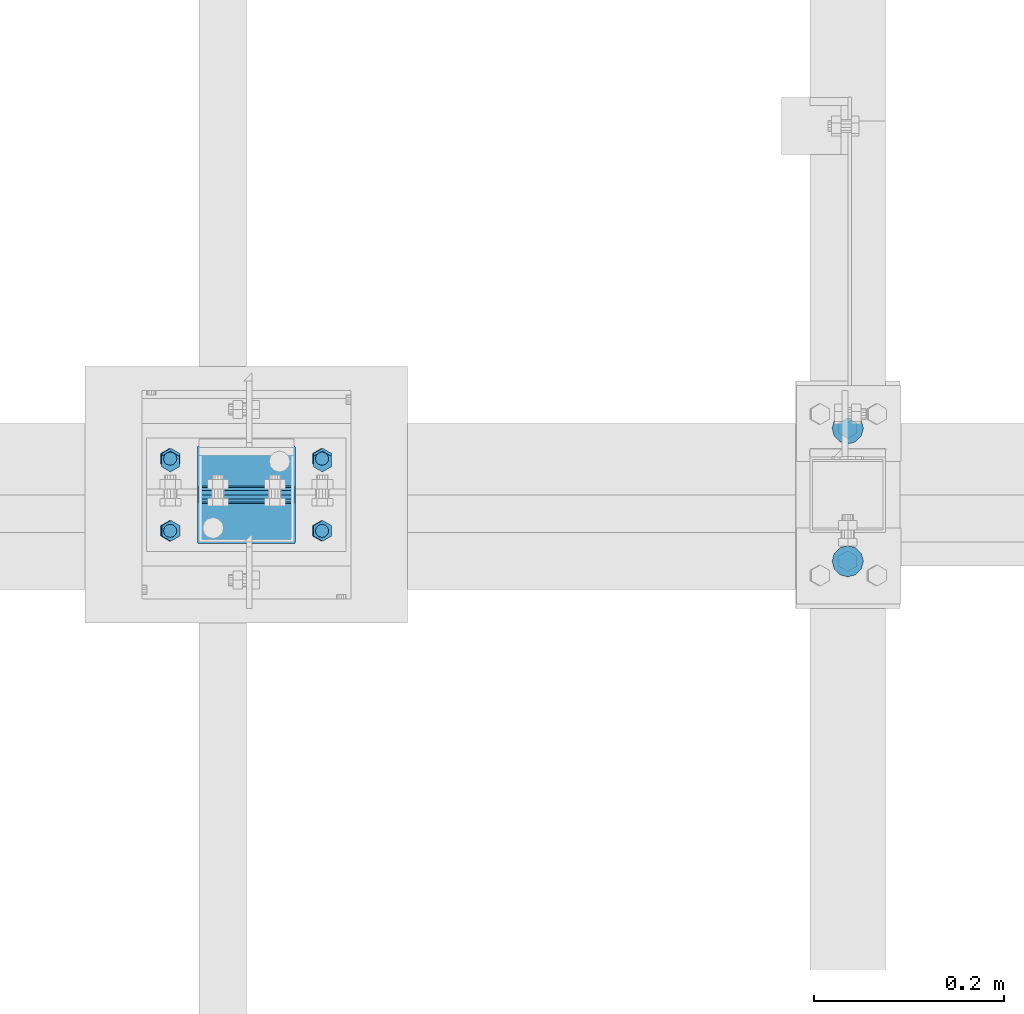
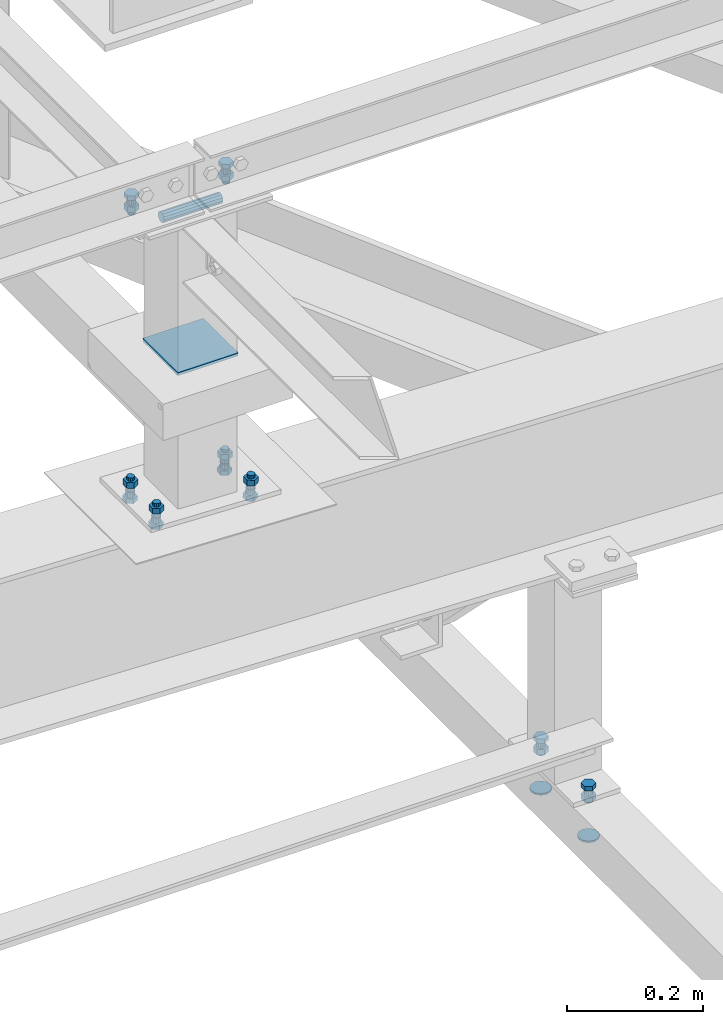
# One storey, part 15 of 3134: 7 mechanical fasteners, 4 elements without a shape of their own.
"""IFC2X3 building model written with IfcOpenShell, lengths in millimetres."""

import ifcopenshell
import ifcopenshell.guid

model = None  # the IFC model being written
_history = None  # IfcOwnerHistory: only IFC2X3 demands one
_inside = {}  # id of a spatial element -> (the spatial element, [elements in it])
_under = {}  # id of a project, library or spatial element -> (it, [spatial elements below it])
_declared = {}  # id of a project -> (the project, [libraries it declares])
_typed = {}  # id of a type object -> (the type object, [elements of that type])
_made_of = {}  # id of a material, layer set ... -> (it, [elements and type objects made of it])


def new_model(schema):
    """Start an empty IFC model of exactly this schema.

    Asked for "IFC4X3", IfcOpenShell would pick the latest addendum, in which some entities
    have other attributes; the version numbers below select the first issue.
    IFC2X3 requires an IfcOwnerHistory on every rooted entity: one is made here for all.
    """
    global model, _history
    if schema == "IFC4X3":
        model = ifcopenshell.file(schema_version=(4, 3, 0, 0))
    else:
        model = ifcopenshell.file(schema=schema)
    _inside.clear()
    _under.clear()
    _declared.clear()
    _typed.clear()
    _made_of.clear()
    _history = None
    if model.schema == "IFC2X3":
        org = make("IfcOrganization", Name="unknown")
        user = make(
            "IfcPersonAndOrganization",
            ThePerson=make("IfcPerson", FamilyName="unknown"),
            TheOrganization=org,
        )
        app = make(
            "IfcApplication",
            ApplicationDeveloper=org,
            Version="unknown",
            ApplicationFullName="unknown",
            ApplicationIdentifier="unknown",
        )
        _history = make(
            "IfcOwnerHistory",
            OwningUser=user,
            OwningApplication=app,
            ChangeAction="ADDED",
            CreationDate=0,
        )
    return model


def make(cls, **values):
    """One entity of the class cls with the attributes given. An attribute that is None is left unset."""
    return model.create_entity(
        cls, **{name: value for name, value in values.items() if value is not None}
    )


def rooted(cls, **values):
    """An entity with a GlobalId (a new one), such as an element, a storey or a relation."""
    return make(cls, GlobalId=ifcopenshell.guid.new(), OwnerHistory=_history, **values)


def si_unit(unit_type, name, prefix=None):
    """IfcSIUnit, for example si_unit("LENGTHUNIT", "METRE", prefix="MILLI")."""
    return make("IfcSIUnit", UnitType=unit_type, Prefix=prefix, Name=name)


def assignment(units):
    """IfcUnitAssignment: the units of a project."""
    return None if units is None else make("IfcUnitAssignment", Units=units)


def point(xyz):
    """IfcCartesianPoint."""
    return None if xyz is None else make("IfcCartesianPoint", Coordinates=xyz)


def direction(xyz):
    """IfcDirection."""
    return None if xyz is None else make("IfcDirection", DirectionRatios=xyz)


def frame(location, z_axis=None, x_axis=None):
    """IfcAxis2Placement3D, a coordinate frame: its origin and axes. An axis left out is left unset."""
    return make(
        "IfcAxis2Placement3D",
        Location=point(location),
        Axis=direction(z_axis),
        RefDirection=direction(x_axis),
    )


def origin_with_axes():
    """The frame at (0, 0, 0) with the z axis (0, 0, 1) and the x axis (1, 0, 0) written out."""
    return frame((0.0, 0.0, 0.0), z_axis=(0.0, 0.0, 1.0), x_axis=(1.0, 0.0, 0.0))


def place(relative_to, where):
    """IfcLocalPlacement: puts the frame where relative to a parent placement (None: the world)."""
    return make(
        "IfcLocalPlacement", PlacementRelTo=relative_to, RelativePlacement=where
    )


def context(
    kind, dimensions, precision=None, world=None, true_north=None, identifier=None
):
    """IfcGeometricRepresentationContext, for example the 3D "Model" context."""
    return make(
        "IfcGeometricRepresentationContext",
        ContextIdentifier=identifier,
        ContextType=kind,
        CoordinateSpaceDimension=dimensions,
        Precision=precision,
        WorldCoordinateSystem=world,
        TrueNorth=true_north,
    )


def subcontext(parent, identifier, kind, view, scale=None):
    """IfcGeometricRepresentationSubContext, for example "Body" below "Model"."""
    return make(
        "IfcGeometricRepresentationSubContext",
        ContextIdentifier=identifier,
        ContextType=kind,
        ParentContext=parent,
        TargetScale=scale,
        TargetView=view,
    )


def project(units=None, contexts=None):
    """IfcProject with its units and contexts."""
    return rooted(
        "IfcProject",
        Name="project",
        RepresentationContexts=contexts,
        UnitsInContext=assignment(units),
    )


def spatial(cls, under=None, at=None, **own):
    """A site, building, storey or space (cls), placed at a placement, below another one or the project."""
    s = rooted(cls, ObjectPlacement=at, **own)
    if under is not None:
        _under.setdefault(under.id(), (under, []))[1].append(s)
    return s


def faces_of(points, faces, orient=None, outer=None):
    """IfcFace entities. A face is a list of loops; a loop is a list of indices into points, from 0.

    orient and outer hold one flag for each loop. By default every Orientation is true, the
    first loop of a face is its IfcFaceOuterBound and the others are IfcFaceBound.
    """
    made = []
    for i, loops in enumerate(faces):
        bounds = []
        for j, loop in enumerate(loops):
            is_outer = j == 0 if outer is None else outer[i][j]
            bounds.append(
                make(
                    "IfcFaceOuterBound" if is_outer else "IfcFaceBound",
                    Bound=make("IfcPolyLoop", Polygon=[points[k] for k in loop]),
                    Orientation=True if orient is None else orient[i][j],
                )
            )
        made.append(make("IfcFace", Bounds=bounds))
    return made


def faceted_brep(points, faces, orient=None, outer=None, voids=None):
    """IfcFacetedBrep: a solid bounded by flat faces; with voids (closed shells), ...WithVoids."""
    shared = [point(p) for p in points]
    hull = make("IfcClosedShell", CfsFaces=faces_of(shared, faces, orient, outer))
    if voids is None:
        return make("IfcFacetedBrep", Outer=hull)
    return make(
        "IfcFacetedBrepWithVoids",
        Outer=hull,
        Voids=[
            make(cls, CfsFaces=faces_of(shared, fs, o, b)) for cls, fs, o, b in voids
        ],
    )


def shape(context_of_items, identifier, shape_type, items):
    """IfcShapeRepresentation: the items that make up one representation, for example the "Body"."""
    return make(
        "IfcShapeRepresentation",
        ContextOfItems=context_of_items,
        RepresentationIdentifier=identifier,
        RepresentationType=shape_type,
        Items=items,
    )


def source(mapping_origin, context_of_items, identifier, shape_type, items):
    """IfcRepresentationMap: a shape defined once, which mapped items show again and again."""
    return make(
        "IfcRepresentationMap",
        MappingOrigin=mapping_origin,
        MappedRepresentation=shape(context_of_items, identifier, shape_type, items),
    )


def transform(
    local_origin,
    x_axis=None,
    y_axis=None,
    z_axis=None,
    scale=None,
    scale2=None,
    scale3=None,
    uniform=True,
):
    """IfcCartesianTransformationOperator3D, or its non-uniform kind. x_axis, y_axis, z_axis: its Axis1, 2, 3."""
    if uniform:
        return make(
            "IfcCartesianTransformationOperator3D",
            Axis1=direction(x_axis),
            Axis2=direction(y_axis),
            LocalOrigin=point(local_origin),
            Scale=scale,
            Axis3=direction(z_axis),
        )
    return make(
        "IfcCartesianTransformationOperator3DnonUniform",
        Axis1=direction(x_axis),
        Axis2=direction(y_axis),
        LocalOrigin=point(local_origin),
        Scale=scale,
        Axis3=direction(z_axis),
        Scale2=scale2,
        Scale3=scale3,
    )


def mapped(mapping_source, mapping_target):
    """IfcMappedItem: shows the shape of a source again, moved by a transform."""
    return make(
        "IfcMappedItem", MappingSource=mapping_source, MappingTarget=mapping_target
    )


def material(Name=None, Category=None):
    """IfcMaterial."""
    return make("IfcMaterial", Name=Name, Category=Category)


def made_of(thing, what):
    """Note that an element or type object is made of a material, layer set ...; save() writes the relation."""
    if what is not None:
        _made_of.setdefault(what.id(), (what, []))[1].append(thing)
    return thing


def type_object(cls, material=None, **own):
    """A type object (cls), such as IfcWallType, which elements share."""
    return made_of(rooted(cls, **own), material)


def element(
    cls,
    number,
    at=None,
    inside=None,
    cuts=None,
    type_object=None,
    material=None,
    context=None,
    identifier="Body",
    shape_type=None,
    held_by="IfcProductDefinitionShape",
    body=None,
    shapes=None,
    **own,
):
    """One element of the class cls, such as IfcWall. Its Tag is "e" and its number.

    at: its placement. inside: the storey or other place that contains it. cuts: it is an
    opening in that element (IfcRelVoidsElement). A single representation is given by context,
    identifier, shape_type and body (its items); several are given by shapes. held_by: the class
    of the entity that holds the representations. save() writes the other relations.
    """
    e = rooted(cls, Tag="e%d" % number, ObjectPlacement=at, **own)
    if body is not None:
        shapes = [shape(context, identifier, shape_type, body)]
    if shapes is not None:
        e.Representation = make(held_by, Representations=shapes)
    if inside is not None:
        _inside.setdefault(inside.id(), (inside, []))[1].append(e)
    if cuts is not None:
        rooted(
            "IfcRelVoidsElement", RelatingBuildingElement=cuts, RelatedOpeningElement=e
        )
    if type_object is not None:
        _typed.setdefault(type_object.id(), (type_object, []))[1].append(e)
    return made_of(e, material)


def aggregate(whole, parts):
    """IfcRelAggregates: a whole, such as a stair, and the parts it consists of."""
    return rooted("IfcRelAggregates", RelatingObject=whole, RelatedObjects=parts)


def save(model, path):
    """Write the relations noted so far, then the file.

    IfcRelAggregates (storeys below a building ...), IfcRelContainedInSpatialStructure (elements
    in a storey), IfcRelDefinesByType, IfcRelAssociatesMaterial and IfcRelDeclares: one each for
    every whole, place, type object, material and project.
    """
    for whole, parts in _under.values():
        aggregate(whole, parts)
    for where, things in _inside.values():
        rooted(
            "IfcRelContainedInSpatialStructure",
            RelatedElements=things,
            RelatingStructure=where,
        )
    for kind, things in _typed.values():
        rooted("IfcRelDefinesByType", RelatedObjects=things, RelatingType=kind)
    for what, things in _made_of.values():
        rooted("IfcRelAssociatesMaterial", RelatedObjects=things, RelatingMaterial=what)
    for by, libraries in _declared.values():
        rooted("IfcRelDeclares", RelatingContext=by, RelatedDefinitions=libraries)
    model.write(path)


model = new_model("IFC2X3")

# Units and contexts
model_context = context("Model", 3, precision=1e-05, world=origin_with_axes())
body_context = subcontext(model_context, "Body", "Model", "MODEL_VIEW")
ifc_project = project(units=[si_unit("LENGTHUNIT", "METRE", prefix="MILLI"), si_unit("AREAUNIT", "SQUARE_METRE"), si_unit("VOLUMEUNIT", "CUBIC_METRE"), si_unit("MASSUNIT", "GRAM", prefix="KILO"), si_unit("TIMEUNIT", "SECOND"), si_unit("PLANEANGLEUNIT", "RADIAN"), si_unit("SOLIDANGLEUNIT", "STERADIAN"), si_unit("THERMODYNAMICTEMPERATUREUNIT", "DEGREE_CELSIUS"), si_unit("LUMINOUSINTENSITYUNIT", "LUMEN")], contexts=[model_context])

# Site, building, storey
site_placement = place(None, origin_with_axes())
site = spatial("IfcSite", under=ifc_project, at=site_placement, CompositionType="ELEMENT")
building_placement = place(site_placement, origin_with_axes())
building = spatial("IfcBuilding", under=site, at=building_placement, Name="Undefined", CompositionType="ELEMENT")
storey_placement = place(building_placement, origin_with_axes())
storey = spatial("IfcBuildingStorey", under=building, at=storey_placement, Name="Undefined", CompositionType="ELEMENT", Elevation=0.0)

# Assembly, mechanical fasteners
assembly_1_placement = place(storey_placement, origin_with_axes())
assembly_1 = element("IfcElementAssembly", 1, at=assembly_1_placement, inside=storey, AssemblyPlace="NOTDEFINED", PredefinedType="RIGID_FRAME")
ifc_material_1 = material(Name="8.8")
mechanical_fastener_type = type_object("IfcMechanicalFastenerType", Name="Bolt assembly")
shared_shape_1 = source(origin_with_axes(), body_context, "Body", "Brep", [
    faceted_brep([(16.5, -3.0, 0.0), (14.289419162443, -3.0, 8.25000000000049), (8.24999999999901, -3.0, 14.2894191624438), (-1.70995436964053e-12, -3.0, 16.5), (-8.25000000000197, -3.0, 14.2894191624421), (-14.2894191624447, -3.0, 8.24999999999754), (-16.5, -3.0, -3.41990873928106e-12), (-14.2894191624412, -3.0, -8.25000000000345), (-8.24999999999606, -3.0, -14.2894191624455), (5.11154442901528e-12, -3.0, -16.5), (8.25000000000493, -3.0, -14.2894191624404), (14.2894191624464, -3.0, -8.24999999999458), (14.2894191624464, 0.1, -8.24999999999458), (8.25000000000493, 0.1, -14.2894191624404), (5.11154442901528e-12, 0.1, -16.5), (-8.24999999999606, 0.1, -14.2894191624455), (-14.2894191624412, 0.1, -8.25000000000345), (-16.5, 0.1, -3.41990873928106e-12), (-14.2894191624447, 0.1, 8.24999999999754), (-8.25000000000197, 0.1, 14.2894191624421), (-1.70995436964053e-12, 0.1, 16.5), (8.24999999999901, 0.1, 14.2894191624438), (14.289419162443, 0.1, 8.25000000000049), (16.5, 0.1, 0.0)], [[[0, 1, 2, 3, 4, 5, 6, 7, 8, 9, 10, 11]], [[12, 13, 14, 15, 16, 17, 18, 19, 20, 21, 22, 23]], [[0, 23, 22, 1]], [[1, 22, 21, 2]], [[2, 21, 20, 3]], [[3, 20, 19, 4]], [[4, 19, 18, 5]], [[5, 18, 17, 6]], [[6, 17, 16, 7]], [[7, 16, 15, 8]], [[8, 15, 14, 9]], [[9, 14, 13, 10]], [[10, 13, 12, 11]], [[11, 12, 23, 0]]]),
])
mechanical_fastener_1_placement = place(assembly_1_placement, frame((6325.0, 13130.0, 3040.0), z_axis=(1.0, 0.0, 0.0), x_axis=(0.0, -1.0, 0.0)))
mechanical_fastener_1 = element("IfcMechanicalFastener", 2, at=mechanical_fastener_1_placement, type_object=mechanical_fastener_type, material=ifc_material_1, Name="Bolt assembly", NominalDiameter=30.0, NominalLength=3.0, context=body_context, shape_type="MappedRepresentation", body=[
    mapped(shared_shape_1, transform((0.0, 0.0, 0.0))),
    mapped(shared_shape_1, transform((140.0, 0.0, 0.0))),
])
shared_shape_2 = source(origin_with_axes(), body_context, "Body", "Brep", [
    faceted_brep([(10.9696551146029, -16.0, 0.0), (5.48482755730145, -16.0, 9.5), (-5.48482755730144, -16.0, 9.5), (-10.9696551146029, -16.0, 1.34339530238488e-15), (-5.48482755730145, -16.0, -9.5), (5.48482755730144, -16.0, -9.50000000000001), (5.48482755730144, -8.0, -9.50000000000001), (-5.48482755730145, -8.0, -9.5), (-10.9696551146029, -8.0, 1.34339530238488e-15), (-5.48482755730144, -8.0, 9.5), (5.48482755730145, -8.0, 9.5), (10.9696551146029, -8.0, 0.0), (6.0, -8.0, 0.0), (5.19615242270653, -8.0, 3.00000000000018), (2.99999999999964, -8.0, 5.19615242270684), (-6.21801588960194e-13, -8.0, 6.0), (-3.00000000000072, -8.0, 5.19615242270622), (-5.19615242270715, -8.0, 2.9999999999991), (-6.0, -8.0, -1.24360317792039e-12), (-5.19615242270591, -8.0, -3.00000000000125), (-2.99999999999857, -8.0, -5.19615242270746), (1.85874342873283e-12, -8.0, -6.0), (3.00000000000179, -8.0, -5.1961524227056), (5.19615242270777, -8.0, -2.99999999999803), (5.19615242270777, 17.0, -2.99999999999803), (3.00000000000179, 17.0, -5.1961524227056), (1.85874342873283e-12, 17.0, -6.0), (-2.99999999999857, 17.0, -5.19615242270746), (-5.19615242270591, 17.0, -3.00000000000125), (-6.0, 17.0, -1.24360317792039e-12), (-5.19615242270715, 17.0, 2.9999999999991), (-3.00000000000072, 17.0, 5.19615242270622), (-6.21801588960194e-13, 17.0, 6.0), (2.99999999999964, 17.0, 5.19615242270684), (5.19615242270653, 17.0, 3.00000000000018), (6.0, 17.0, 0.0), (10.9696551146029, 3.00000000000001, 0.0), (5.48482755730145, 3.00000000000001, 9.5), (-5.48482755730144, 3.00000000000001, 9.5), (-10.9696551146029, 3.00000000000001, 1.34339530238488e-15), (-5.48482755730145, 3.00000000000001, -9.5), (5.48482755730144, 3.00000000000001, -9.50000000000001), (5.48482755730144, 13.0, -9.50000000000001), (-5.48482755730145, 13.0, -9.5), (-10.9696551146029, 13.0, 1.34339530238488e-15), (-5.48482755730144, 13.0, 9.5), (5.48482755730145, 13.0, 9.5), (10.9696551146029, 13.0, 0.0)], [[[0, 1, 2, 3, 4, 5]], [[6, 7, 8, 9, 10, 11]], [[0, 11, 10, 1]], [[1, 10, 9, 2]], [[2, 9, 8, 3]], [[3, 8, 7, 4]], [[4, 7, 6, 5]], [[5, 6, 11, 0]], [[12, 13, 14, 15, 16, 17, 18, 19, 20, 21, 22, 23]], [[24, 25, 26, 27, 28, 29, 30, 31, 32, 33, 34, 35]], [[12, 35, 34, 13]], [[13, 34, 33, 14]], [[14, 33, 32, 15]], [[15, 32, 31, 16]], [[16, 31, 30, 17]], [[17, 30, 29, 18]], [[18, 29, 28, 19]], [[19, 28, 27, 20]], [[20, 27, 26, 21]], [[21, 26, 25, 22]], [[22, 25, 24, 23]], [[23, 24, 35, 12]], [[36, 37, 38, 39, 40, 41]], [[42, 43, 44, 45, 46, 47]], [[36, 47, 46, 37]], [[37, 46, 45, 38]], [[38, 45, 44, 39]], [[39, 44, 43, 40]], [[40, 43, 42, 41]], [[41, 42, 47, 36]]]),
    faceted_brep([(7.0, -7.9, 0.0), (6.06217782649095, -7.9, 3.50000000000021), (3.49999999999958, -7.9, 6.06217782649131), (-7.25435187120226e-13, -7.9, 7.0), (-3.50000000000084, -7.9, 6.06217782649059), (-6.06217782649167, -7.9, 3.49999999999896), (-7.0, -7.9, -1.45087037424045e-12), (-6.06217782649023, -7.9, -3.50000000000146), (-3.49999999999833, -7.9, -6.06217782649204), (2.1685340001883e-12, -7.9, -7.0), (3.50000000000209, -7.9, -6.06217782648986), (6.0621778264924, -7.9, -3.4999999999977), (6.0621778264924, 0.0999999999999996, -3.4999999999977), (3.50000000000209, 0.0999999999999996, -6.06217782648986), (2.1685340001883e-12, 0.0999999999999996, -7.0), (-3.49999999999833, 0.0999999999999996, -6.06217782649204), (-6.06217782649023, 0.0999999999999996, -3.50000000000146), (-7.0, 0.0999999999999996, -1.45087037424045e-12), (-6.06217782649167, 0.0999999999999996, 3.49999999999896), (-3.50000000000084, 0.0999999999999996, 6.06217782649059), (-7.25435187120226e-13, 0.0999999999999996, 7.0), (3.49999999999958, 0.0999999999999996, 6.06217782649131), (6.06217782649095, 0.0999999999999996, 3.50000000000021), (7.0, 0.0999999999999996, 0.0), (7.0, -0.1, 0.0), (6.06217782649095, -0.1, 3.50000000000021), (3.49999999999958, -0.1, 6.06217782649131), (-7.25435187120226e-13, -0.1, 7.0), (-3.50000000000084, -0.1, 6.06217782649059), (-6.06217782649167, -0.1, 3.49999999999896), (-7.0, -0.1, -1.45087037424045e-12), (-6.06217782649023, -0.1, -3.50000000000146), (-3.49999999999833, -0.1, -6.06217782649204), (2.1685340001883e-12, -0.1, -7.0), (3.50000000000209, -0.1, -6.06217782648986), (6.0621778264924, -0.1, -3.4999999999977), (6.0621778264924, 3.0, -3.4999999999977), (3.50000000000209, 3.0, -6.06217782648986), (2.1685340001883e-12, 3.0, -7.0), (-3.49999999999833, 3.0, -6.06217782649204), (-6.06217782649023, 3.0, -3.50000000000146), (-7.0, 3.0, -1.45087037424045e-12), (-6.06217782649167, 3.0, 3.49999999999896), (-3.50000000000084, 3.0, 6.06217782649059), (-7.25435187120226e-13, 3.0, 7.0), (3.49999999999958, 3.0, 6.06217782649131), (6.06217782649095, 3.0, 3.50000000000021), (7.0, 3.0, 0.0)], [[[0, 1, 2, 3, 4, 5, 6, 7, 8, 9, 10, 11]], [[12, 13, 14, 15, 16, 17, 18, 19, 20, 21, 22, 23]], [[0, 23, 22, 1]], [[1, 22, 21, 2]], [[2, 21, 20, 3]], [[3, 20, 19, 4]], [[4, 19, 18, 5]], [[5, 18, 17, 6]], [[6, 17, 16, 7]], [[7, 16, 15, 8]], [[8, 15, 14, 9]], [[9, 14, 13, 10]], [[10, 13, 12, 11]], [[11, 12, 23, 0]], [[24, 25, 26, 27, 28, 29, 30, 31, 32, 33, 34, 35]], [[36, 37, 38, 39, 40, 41, 42, 43, 44, 45, 46, 47]], [[24, 47, 46, 25]], [[25, 46, 45, 26]], [[26, 45, 44, 27]], [[27, 44, 43, 28]], [[28, 43, 42, 29]], [[29, 42, 41, 30]], [[30, 41, 40, 31]], [[31, 40, 39, 32]], [[32, 39, 38, 33]], [[33, 38, 37, 34]], [[34, 37, 36, 35]], [[35, 36, 47, 24]]]),
])
mechanical_fastener_2_placement = place(assembly_1_placement, frame((6325.0, 13130.0, 3120.0), z_axis=(1.0, 0.0, 0.0), x_axis=(0.0, -1.0, 0.0)))
mechanical_fastener_2 = element("IfcMechanicalFastener", 3, at=mechanical_fastener_2_placement, type_object=mechanical_fastener_type, material=ifc_material_1, Name="Bolt assembly", NominalDiameter=12.0, NominalLength=25.0, context=body_context, shape_type="MappedRepresentation", body=[
    mapped(shared_shape_2, transform((0.0, 0.0, 0.0))),
    mapped(shared_shape_2, transform((140.0, 0.0, 0.0))),
])
aggregate(assembly_1, [mechanical_fastener_2, mechanical_fastener_1])

# Assembly, mechanical fastener
assembly_2_placement = place(storey_placement, origin_with_axes())
assembly_2 = element("IfcElementAssembly", 4, at=assembly_2_placement, inside=storey, AssemblyPlace="NOTDEFINED", PredefinedType="RIGID_FRAME")
shared_shape_3 = source(origin_with_axes(), body_context, "Body", "Brep", [
    faceted_brep([(10.9696551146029, -14.0, 0.0), (5.48482755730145, -14.0, 9.5), (-5.48482755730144, -14.0, 9.5), (-10.9696551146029, -14.0, 1.34339530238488e-15), (-5.48482755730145, -14.0, -9.5), (5.48482755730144, -14.0, -9.50000000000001), (5.48482755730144, -6.0, -9.50000000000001), (-5.48482755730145, -6.0, -9.5), (-10.9696551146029, -6.0, 1.34339530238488e-15), (-5.48482755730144, -6.0, 9.5), (5.48482755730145, -6.0, 9.5), (10.9696551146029, -6.0, 0.0), (6.0, -6.0, 0.0), (5.19615242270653, -6.0, 3.00000000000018), (2.99999999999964, -6.0, 5.19615242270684), (-6.21801588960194e-13, -6.0, 6.0), (-3.00000000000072, -6.0, 5.19615242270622), (-5.19615242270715, -6.0, 2.9999999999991), (-6.0, -6.0, -1.24360317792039e-12), (-5.19615242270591, -6.0, -3.00000000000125), (-2.99999999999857, -6.0, -5.19615242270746), (1.85874342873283e-12, -6.0, -6.0), (3.00000000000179, -6.0, -5.1961524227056), (5.19615242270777, -6.0, -2.99999999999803), (5.19615242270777, 24.0, -2.99999999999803), (3.00000000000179, 24.0, -5.1961524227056), (1.85874342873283e-12, 24.0, -6.0), (-2.99999999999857, 24.0, -5.19615242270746), (-5.19615242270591, 24.0, -3.00000000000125), (-6.0, 24.0, -1.24360317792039e-12), (-5.19615242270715, 24.0, 2.9999999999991), (-3.00000000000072, 24.0, 5.19615242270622), (-6.21801588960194e-13, 24.0, 6.0), (2.99999999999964, 24.0, 5.19615242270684), (5.19615242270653, 24.0, 3.00000000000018), (6.0, 24.0, 0.0), (10.9696551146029, 6.00000000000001, 0.0), (5.48482755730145, 6.00000000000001, 9.5), (-5.48482755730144, 6.00000000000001, 9.5), (-10.9696551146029, 6.00000000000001, 1.34339530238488e-15), (-5.48482755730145, 6.00000000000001, -9.5), (5.48482755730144, 6.00000000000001, -9.50000000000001), (5.48482755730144, 16.0, -9.50000000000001), (-5.48482755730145, 16.0, -9.5), (-10.9696551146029, 16.0, 1.34339530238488e-15), (-5.48482755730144, 16.0, 9.5), (5.48482755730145, 16.0, 9.5), (10.9696551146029, 16.0, 0.0)], [[[0, 1, 2, 3, 4, 5]], [[6, 7, 8, 9, 10, 11]], [[0, 11, 10, 1]], [[1, 10, 9, 2]], [[2, 9, 8, 3]], [[3, 8, 7, 4]], [[4, 7, 6, 5]], [[5, 6, 11, 0]], [[12, 13, 14, 15, 16, 17, 18, 19, 20, 21, 22, 23]], [[24, 25, 26, 27, 28, 29, 30, 31, 32, 33, 34, 35]], [[12, 35, 34, 13]], [[13, 34, 33, 14]], [[14, 33, 32, 15]], [[15, 32, 31, 16]], [[16, 31, 30, 17]], [[17, 30, 29, 18]], [[18, 29, 28, 19]], [[19, 28, 27, 20]], [[20, 27, 26, 21]], [[21, 26, 25, 22]], [[22, 25, 24, 23]], [[23, 24, 35, 12]], [[36, 37, 38, 39, 40, 41]], [[42, 43, 44, 45, 46, 47]], [[36, 47, 46, 37]], [[37, 46, 45, 38]], [[38, 45, 44, 39]], [[39, 44, 43, 40]], [[40, 43, 42, 41]], [[41, 42, 47, 36]]]),
    faceted_brep([(7.0, -0.1, 0.0), (6.06217782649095, -0.1, 3.50000000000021), (3.49999999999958, -0.1, 6.06217782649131), (-7.25435187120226e-13, -0.1, 7.0), (-3.50000000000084, -0.1, 6.06217782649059), (-6.06217782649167, -0.1, 3.49999999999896), (-7.0, -0.1, -1.45087037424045e-12), (-6.06217782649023, -0.1, -3.50000000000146), (-3.49999999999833, -0.1, -6.06217782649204), (2.1685340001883e-12, -0.1, -7.0), (3.50000000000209, -0.1, -6.06217782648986), (6.0621778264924, -0.1, -3.4999999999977), (6.0621778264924, 6.00000000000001, -3.4999999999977), (3.50000000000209, 6.00000000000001, -6.06217782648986), (2.1685340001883e-12, 6.00000000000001, -7.0), (-3.49999999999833, 6.00000000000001, -6.06217782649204), (-6.06217782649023, 6.00000000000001, -3.50000000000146), (-7.0, 6.00000000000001, -1.45087037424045e-12), (-6.06217782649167, 6.00000000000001, 3.49999999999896), (-3.50000000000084, 6.00000000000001, 6.06217782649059), (-7.25435187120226e-13, 6.00000000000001, 7.0), (3.49999999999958, 6.00000000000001, 6.06217782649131), (6.06217782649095, 6.00000000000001, 3.50000000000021), (7.0, 6.00000000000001, 0.0), (7.0, -5.9, 0.0), (6.06217782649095, -5.9, 3.50000000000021), (3.49999999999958, -5.9, 6.06217782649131), (-7.25435187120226e-13, -5.9, 7.0), (-3.50000000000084, -5.9, 6.06217782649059), (-6.06217782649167, -5.9, 3.49999999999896), (-7.0, -5.9, -1.45087037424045e-12), (-6.06217782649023, -5.9, -3.50000000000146), (-3.49999999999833, -5.9, -6.06217782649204), (2.1685340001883e-12, -5.9, -7.0), (3.50000000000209, -5.9, -6.06217782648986), (6.0621778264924, -5.9, -3.4999999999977), (6.0621778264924, 0.0999999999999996, -3.4999999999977), (3.50000000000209, 0.0999999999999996, -6.06217782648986), (2.1685340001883e-12, 0.0999999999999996, -7.0), (-3.49999999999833, 0.0999999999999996, -6.06217782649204), (-6.06217782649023, 0.0999999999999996, -3.50000000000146), (-7.0, 0.0999999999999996, -1.45087037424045e-12), (-6.06217782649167, 0.0999999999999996, 3.49999999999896), (-3.50000000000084, 0.0999999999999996, 6.06217782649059), (-7.25435187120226e-13, 0.0999999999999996, 7.0), (3.49999999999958, 0.0999999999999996, 6.06217782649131), (6.06217782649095, 0.0999999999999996, 3.50000000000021), (7.0, 0.0999999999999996, 0.0)], [[[0, 1, 2, 3, 4, 5, 6, 7, 8, 9, 10, 11]], [[12, 13, 14, 15, 16, 17, 18, 19, 20, 21, 22, 23]], [[0, 23, 22, 1]], [[1, 22, 21, 2]], [[2, 21, 20, 3]], [[3, 20, 19, 4]], [[4, 19, 18, 5]], [[5, 18, 17, 6]], [[6, 17, 16, 7]], [[7, 16, 15, 8]], [[8, 15, 14, 9]], [[9, 14, 13, 10]], [[10, 13, 12, 11]], [[11, 12, 23, 0]], [[24, 25, 26, 27, 28, 29, 30, 31, 32, 33, 34, 35]], [[36, 37, 38, 39, 40, 41, 42, 43, 44, 45, 46, 47]], [[24, 47, 46, 25]], [[25, 46, 45, 26]], [[26, 45, 44, 27]], [[27, 44, 43, 28]], [[28, 43, 42, 29]], [[29, 42, 41, 30]], [[30, 41, 40, 31]], [[31, 40, 39, 32]], [[32, 39, 38, 33]], [[33, 38, 37, 34]], [[34, 37, 36, 35]], [[35, 36, 47, 24]]]),
])
mechanical_fastener_3_placement = place(assembly_2_placement, frame((5691.67, 13095.0, 4365.0), z_axis=(1.0, 0.0, 0.0), x_axis=(0.0, -1.0, 0.0)))
mechanical_fastener_3 = element("IfcMechanicalFastener", 5, at=mechanical_fastener_3_placement, type_object=mechanical_fastener_type, material=ifc_material_1, Name="Bolt assembly", NominalDiameter=12.0, NominalLength=30.0, context=body_context, shape_type="MappedRepresentation", body=[
    mapped(shared_shape_3, transform((0.0, -5.32963895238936e-10, -79.9999999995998))),
    mapped(shared_shape_3, transform((0.0, 5.3114490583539e-10, 79.9999999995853))),
])
aggregate(assembly_2, [mechanical_fastener_3])

assembly_3_placement = place(storey_placement, origin_with_axes())
assembly_3 = element("IfcElementAssembly", 6, at=assembly_3_placement, inside=storey, AssemblyPlace="NOTDEFINED", PredefinedType="RIGID_FRAME")
shared_shape_4 = source(origin_with_axes(), body_context, "Body", "Brep", [
    faceted_brep([(10.9696551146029, -4.18280906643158, 0.0), (5.48482755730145, -4.18280906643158, 9.5), (-5.48482755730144, -4.18280906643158, 9.5), (-10.9696551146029, -4.18280906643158, 1.34339530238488e-15), (-5.48482755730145, -4.18280906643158, -9.5), (5.48482755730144, -4.18280906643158, -9.50000000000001), (5.48482755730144, 3.81719093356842, -9.50000000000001), (-5.48482755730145, 3.81719093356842, -9.5), (-10.9696551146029, 3.81719093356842, 1.34339530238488e-15), (-5.48482755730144, 3.81719093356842, 9.5), (5.48482755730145, 3.81719093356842, 9.5), (10.9696551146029, 3.81719093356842, 0.0), (6.0, 3.81719093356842, 0.0), (5.19615242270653, 3.81719093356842, 3.00000000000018), (2.99999999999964, 3.81719093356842, 5.19615242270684), (-6.21801588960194e-13, 3.81719093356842, 6.0), (-3.00000000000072, 3.81719093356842, 5.19615242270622), (-5.19615242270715, 3.81719093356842, 2.9999999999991), (-6.0, 3.81719093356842, -1.24360317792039e-12), (-5.19615242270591, 3.81719093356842, -3.00000000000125), (-2.99999999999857, 3.81719093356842, -5.19615242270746), (1.85874342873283e-12, 3.81719093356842, -6.0), (3.00000000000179, 3.81719093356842, -5.1961524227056), (5.19615242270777, 3.81719093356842, -2.99999999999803), (5.19615242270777, 38.8171909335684, -2.99999999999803), (3.00000000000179, 38.8171909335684, -5.1961524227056), (1.85874342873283e-12, 38.8171909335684, -6.0), (-2.99999999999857, 38.8171909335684, -5.19615242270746), (-5.19615242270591, 38.8171909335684, -3.00000000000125), (-6.0, 38.8171909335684, -1.24360317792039e-12), (-5.19615242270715, 38.8171909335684, 2.9999999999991), (-3.00000000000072, 38.8171909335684, 5.19615242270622), (-6.21801588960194e-13, 38.8171909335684, 6.0), (2.99999999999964, 38.8171909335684, 5.19615242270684), (5.19615242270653, 38.8171909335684, 3.00000000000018), (6.0, 38.8171909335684, 0.0), (10.9696551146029, 23.0139082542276, 0.0), (5.48482755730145, 23.0139082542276, 9.5), (-5.48482755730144, 23.0139082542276, 9.5), (-10.9696551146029, 23.0139082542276, 1.34339530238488e-15), (-5.48482755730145, 23.0139082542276, -9.5), (5.48482755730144, 23.0139082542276, -9.50000000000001), (5.48482755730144, 33.0139082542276, -9.50000000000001), (-5.48482755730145, 33.0139082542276, -9.5), (-10.9696551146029, 33.0139082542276, 1.34339530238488e-15), (-5.48482755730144, 33.0139082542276, 9.5), (5.48482755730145, 33.0139082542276, 9.5), (10.9696551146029, 33.0139082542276, 0.0)], [[[0, 1, 2, 3, 4, 5]], [[6, 7, 8, 9, 10, 11]], [[0, 11, 10, 1]], [[1, 10, 9, 2]], [[2, 9, 8, 3]], [[3, 8, 7, 4]], [[4, 7, 6, 5]], [[5, 6, 11, 0]], [[12, 13, 14, 15, 16, 17, 18, 19, 20, 21, 22, 23]], [[24, 25, 26, 27, 28, 29, 30, 31, 32, 33, 34, 35]], [[12, 35, 34, 13]], [[13, 34, 33, 14]], [[14, 33, 32, 15]], [[15, 32, 31, 16]], [[16, 31, 30, 17]], [[17, 30, 29, 18]], [[18, 29, 28, 19]], [[19, 28, 27, 20]], [[20, 27, 26, 21]], [[21, 26, 25, 22]], [[22, 25, 24, 23]], [[23, 24, 35, 12]], [[36, 37, 38, 39, 40, 41]], [[42, 43, 44, 45, 46, 47]], [[36, 47, 46, 37]], [[37, 46, 45, 38]], [[38, 45, 44, 39]], [[39, 44, 43, 40]], [[40, 43, 42, 41]], [[41, 42, 47, 36]]]),
    faceted_brep([(7.0, 3.91719093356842, 0.0), (6.06217782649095, 3.91719093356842, 3.50000000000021), (3.49999999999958, 3.91719093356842, 6.06217782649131), (-7.25435187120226e-13, 3.91719093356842, 7.0), (-3.50000000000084, 3.91719093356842, 6.06217782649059), (-6.06217782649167, 3.91719093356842, 3.49999999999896), (-7.0, 3.91719093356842, -1.45087037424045e-12), (-6.06217782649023, 3.91719093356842, -3.50000000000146), (-3.49999999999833, 3.91719093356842, -6.06217782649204), (2.1685340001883e-12, 3.91719093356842, -7.0), (3.50000000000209, 3.91719093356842, -6.06217782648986), (6.0621778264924, 3.91719093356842, -3.4999999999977), (6.0621778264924, 13.1171907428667, -3.4999999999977), (3.50000000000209, 13.1171907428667, -6.06217782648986), (2.1685340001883e-12, 13.1171907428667, -7.0), (-3.49999999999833, 13.1171907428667, -6.06217782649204), (-6.06217782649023, 13.1171907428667, -3.50000000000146), (-7.0, 13.1171907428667, -1.45087037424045e-12), (-6.06217782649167, 13.1171907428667, 3.49999999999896), (-3.50000000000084, 13.1171907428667, 6.06217782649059), (-7.25435187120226e-13, 13.1171907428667, 7.0), (3.49999999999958, 13.1171907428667, 6.06217782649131), (6.06217782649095, 13.1171907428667, 3.50000000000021), (7.0, 13.1171907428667, 0.0), (7.0, 14.9139082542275, 0.0), (6.06217782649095, 14.9139082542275, 3.50000000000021), (3.49999999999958, 14.9139082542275, 6.06217782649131), (-7.25435187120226e-13, 14.9139082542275, 7.0), (-3.50000000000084, 14.9139082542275, 6.06217782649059), (-6.06217782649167, 14.9139082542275, 3.49999999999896), (-7.0, 14.9139082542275, -1.45087037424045e-12), (-6.06217782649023, 14.9139082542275, -3.50000000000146), (-3.49999999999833, 14.9139082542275, -6.06217782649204), (2.1685340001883e-12, 14.9139082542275, -7.0), (3.50000000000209, 14.9139082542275, -6.06217782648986), (6.0621778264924, 14.9139082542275, -3.4999999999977), (6.0621778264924, 23.0139082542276, -3.4999999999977), (3.50000000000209, 23.0139082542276, -6.06217782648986), (2.1685340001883e-12, 23.0139082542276, -7.0), (-3.49999999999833, 23.0139082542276, -6.06217782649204), (-6.06217782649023, 23.0139082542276, -3.50000000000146), (-7.0, 23.0139082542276, -1.45087037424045e-12), (-6.06217782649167, 23.0139082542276, 3.49999999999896), (-3.50000000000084, 23.0139082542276, 6.06217782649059), (-7.25435187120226e-13, 23.0139082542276, 7.0), (3.49999999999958, 23.0139082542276, 6.06217782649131), (6.06217782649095, 23.0139082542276, 3.50000000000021), (7.0, 23.0139082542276, 0.0)], [[[0, 1, 2, 3, 4, 5, 6, 7, 8, 9, 10, 11]], [[12, 13, 14, 15, 16, 17, 18, 19, 20, 21, 22, 23]], [[0, 23, 22, 1]], [[1, 22, 21, 2]], [[2, 21, 20, 3]], [[3, 20, 19, 4]], [[4, 19, 18, 5]], [[5, 18, 17, 6]], [[6, 17, 16, 7]], [[7, 16, 15, 8]], [[8, 15, 14, 9]], [[9, 14, 13, 10]], [[10, 13, 12, 11]], [[11, 12, 23, 0]], [[24, 25, 26, 27, 28, 29, 30, 31, 32, 33, 34, 35]], [[36, 37, 38, 39, 40, 41, 42, 43, 44, 45, 46, 47]], [[24, 47, 46, 25]], [[25, 46, 45, 26]], [[26, 45, 44, 27]], [[27, 44, 43, 28]], [[28, 43, 42, 29]], [[29, 42, 41, 30]], [[30, 41, 40, 31]], [[31, 40, 39, 32]], [[32, 39, 38, 33]], [[33, 38, 37, 34]], [[34, 37, 36, 35]], [[35, 36, 47, 24]]]),
])
mechanical_fastener_4_placement = place(assembly_3_placement, frame((5690.86474073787, 13097.9999999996, 3827.79222028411), z_axis=(-0.999387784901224, 0.0, 0.0349865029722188), x_axis=(0.0, -1.0, 0.0)))
mechanical_fastener_4 = element("IfcMechanicalFastener", 7, at=mechanical_fastener_4_placement, type_object=mechanical_fastener_type, material=ifc_material_1, Name="Bolt assembly", NominalDiameter=12.0, NominalLength=35.0, context=body_context, shape_type="MappedRepresentation", body=[
    mapped(shared_shape_4, transform((0.0, -5.32963895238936e-10, -79.9999999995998))),
    mapped(shared_shape_4, transform((76.0, -5.32963895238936e-10, -79.9999999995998))),
    mapped(shared_shape_4, transform((0.0, 5.3114490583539e-10, 79.9999999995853))),
    mapped(shared_shape_4, transform((76.0, 5.3114490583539e-10, 79.9999999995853))),
])

assembly_4_placement = place(storey_placement, origin_with_axes())
assembly_4 = element("IfcElementAssembly", 8, at=assembly_4_placement, inside=storey, AssemblyPlace="NOTDEFINED", PredefinedType="RIGID_FRAME")
shared_shape_5 = source(origin_with_axes(), body_context, "Body", "Brep", [
    faceted_brep([(7.0, 13.0000253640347, 0.0), (6.06217782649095, 13.0000253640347, 3.50000000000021), (3.49999999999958, 13.0000253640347, 6.06217782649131), (-7.25435187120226e-13, 13.0000253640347, 7.0), (-3.50000000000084, 13.0000253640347, 6.06217782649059), (-6.06217782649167, 13.0000253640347, 3.49999999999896), (-7.0, 13.0000253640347, -1.45087037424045e-12), (-6.06217782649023, 13.0000253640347, -3.50000000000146), (-3.49999999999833, 13.0000253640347, -6.06217782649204), (2.1685340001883e-12, 13.0000253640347, -7.0), (3.50000000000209, 13.0000253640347, -6.06217782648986), (6.0621778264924, 13.0000253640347, -3.4999999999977), (6.0621778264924, 15.0999999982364, -3.4999999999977), (3.50000000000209, 15.0999999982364, -6.06217782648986), (2.1685340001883e-12, 15.0999999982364, -7.0), (-3.49999999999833, 15.0999999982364, -6.06217782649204), (-6.06217782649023, 15.0999999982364, -3.50000000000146), (-7.0, 15.0999999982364, -1.45087037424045e-12), (-6.06217782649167, 15.0999999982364, 3.49999999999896), (-3.50000000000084, 15.0999999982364, 6.06217782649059), (-7.25435187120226e-13, 15.0999999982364, 7.0), (3.49999999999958, 15.0999999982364, 6.06217782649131), (6.06217782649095, 15.0999999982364, 3.50000000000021), (7.0, 15.0999999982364, 0.0)], [[[0, 1, 2, 3, 4, 5, 6, 7, 8, 9, 10, 11]], [[12, 13, 14, 15, 16, 17, 18, 19, 20, 21, 22, 23]], [[0, 23, 22, 1]], [[1, 22, 21, 2]], [[2, 21, 20, 3]], [[3, 20, 19, 4]], [[4, 19, 18, 5]], [[5, 18, 17, 6]], [[6, 17, 16, 7]], [[7, 16, 15, 8]], [[8, 15, 14, 9]], [[9, 14, 13, 10]], [[10, 13, 12, 11]], [[11, 12, 23, 0]]]),
])
mechanical_fastener_5_placement = place(assembly_4_placement, frame((5690.86474073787, 13097.9999999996, 3827.79222028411), z_axis=(-0.999387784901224, 0.0, 0.0349865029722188), x_axis=(0.0, -1.0, 0.0)))
mechanical_fastener_5 = element("IfcMechanicalFastener", 9, at=mechanical_fastener_5_placement, type_object=mechanical_fastener_type, material=ifc_material_1, Name="Bolt assembly", NominalDiameter=12.0, NominalLength=2.0, context=body_context, shape_type="MappedRepresentation", body=[
    mapped(shared_shape_5, transform((0.0, -5.32963895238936e-10, -79.9999999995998))),
    mapped(shared_shape_5, transform((76.0, -5.32963895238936e-10, -79.9999999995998))),
    mapped(shared_shape_5, transform((0.0, 5.3114490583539e-10, 79.9999999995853))),
    mapped(shared_shape_5, transform((76.0, 5.3114490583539e-10, 79.9999999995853))),
])
aggregate(assembly_4, [mechanical_fastener_5])

# Mechanical fastener
shared_shape_6 = source(origin_with_axes(), body_context, "Body", "Brep", [
    faceted_brep([(9.0, -50.0, 0.0), (7.79422863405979, -50.0, 4.50000000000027), (4.49999999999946, -50.0, 7.79422863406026), (-9.3270238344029e-13, -50.0, 9.0), (-4.50000000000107, -50.0, 7.79422863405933), (-7.79422863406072, -50.0, 4.49999999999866), (-9.0, -50.0, -1.86540476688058e-12), (-7.79422863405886, -50.0, -4.50000000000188), (-4.49999999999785, -50.0, -7.79422863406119), (2.78811514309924e-12, -50.0, -9.0), (4.50000000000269, -50.0, -7.7942286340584), (7.79422863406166, -50.0, -4.49999999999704), (7.79422863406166, 50.1, -4.49999999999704), (4.50000000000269, 50.1, -7.7942286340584), (2.78811514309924e-12, 50.1, -9.0), (-4.49999999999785, 50.1, -7.79422863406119), (-7.79422863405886, 50.1, -4.50000000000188), (-9.0, 50.1, -1.86540476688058e-12), (-7.79422863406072, 50.1, 4.49999999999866), (-4.50000000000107, 50.1, 7.79422863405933), (-9.3270238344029e-13, 50.1, 9.0), (4.49999999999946, 50.1, 7.79422863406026), (7.79422863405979, 50.1, 4.50000000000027), (9.0, 50.1, 0.0)], [[[0, 1, 2, 3, 4, 5, 6, 7, 8, 9, 10, 11]], [[12, 13, 14, 15, 16, 17, 18, 19, 20, 21, 22, 23]], [[0, 23, 22, 1]], [[1, 22, 21, 2]], [[2, 21, 20, 3]], [[3, 20, 19, 4]], [[4, 19, 18, 5]], [[5, 18, 17, 6]], [[6, 17, 16, 7]], [[7, 16, 15, 8]], [[8, 15, 14, 9]], [[9, 14, 13, 10]], [[10, 13, 12, 11]], [[11, 12, 23, 0]]]),
])
mechanical_fastener_6_placement = place(assembly_3_placement, frame((5691.67, 13060.0, 4345.0), z_axis=(0.0, 1.0, 0.0), x_axis=(0.0, 0.0, 1.0)))
mechanical_fastener_6 = element("IfcMechanicalFastener", 10, at=mechanical_fastener_6_placement, type_object=mechanical_fastener_type, material=ifc_material_1, Name="Bolt assembly", NominalDiameter=16.0, NominalLength=100.0, context=body_context, shape_type="MappedRepresentation", body=[
    mapped(shared_shape_6, transform((0.0, 0.0, 0.0))),
])

ifc_material_2 = material(Name="6.8")
shared_shape_7 = source(origin_with_axes(), body_context, "Body", "Brep", [
    faceted_brep([(51.5, 1.36424205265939e-12, 50.0), (51.3858192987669, 1.36424205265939e-12, 50.5740251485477), (51.0606601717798, 1.36424205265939e-12, 51.0606601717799), (50.5740251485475, 1.36424205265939e-12, 51.385819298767), (-50.0000000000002, 1.36424205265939e-12, 51.5), (-50.7500000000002, 1.36424205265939e-12, 51.2990381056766), (-51.2990381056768, 1.36424205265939e-12, 50.7499999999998), (-51.5, 1.36424205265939e-12, 49.9999999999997), (-51.5, 1.36424205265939e-12, -50.0000000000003), (-51.2990381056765, 1.36424205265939e-12, -50.7500000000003), (-50.7499999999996, 1.36424205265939e-12, -51.2990381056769), (-49.9999999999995, 1.36424205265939e-12, -51.5), (50.0000000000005, 1.36424205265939e-12, -51.5), (50.7500000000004, 1.36424205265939e-12, -51.2990381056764), (51.2990381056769, 1.36424205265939e-12, -50.7499999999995), (51.5, 1.36424205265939e-12, -49.9999999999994), (51.5, 5.10000000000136, -49.9999999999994), (51.2990381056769, 5.10000000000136, -50.7499999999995), (50.7500000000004, 5.10000000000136, -51.2990381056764), (50.0000000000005, 5.10000000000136, -51.5), (-49.9999999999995, 5.10000000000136, -51.5), (-50.7499999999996, 5.10000000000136, -51.2990381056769), (-51.2990381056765, 5.10000000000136, -50.7500000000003), (-51.5, 5.10000000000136, -50.0000000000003), (-51.5, 5.10000000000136, 49.9999999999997), (-51.2990381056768, 5.10000000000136, 50.7499999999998), (-50.7500000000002, 5.10000000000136, 51.2990381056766), (-50.0000000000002, 5.10000000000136, 51.5), (50.5740251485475, 5.10000000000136, 51.385819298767), (51.0606601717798, 5.10000000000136, 51.0606601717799), (51.3858192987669, 5.10000000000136, 50.5740251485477), (51.5, 5.10000000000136, 50.0)], [[[0, 1, 2, 3, 4, 5, 6, 7, 8, 9, 10, 11, 12, 13, 14, 15]], [[16, 17, 18, 19, 20, 21, 22, 23, 24, 25, 26, 27, 28, 29, 30, 31]], [[0, 31, 30, 1]], [[1, 30, 29, 2]], [[2, 29, 28, 3]], [[3, 28, 27, 4]], [[4, 27, 26, 5]], [[5, 26, 25, 6]], [[6, 25, 24, 7]], [[7, 24, 23, 8]], [[8, 23, 22, 9]], [[9, 22, 21, 10]], [[10, 21, 20, 11]], [[11, 20, 19, 12]], [[12, 19, 18, 13]], [[13, 18, 17, 14]], [[14, 17, 16, 15]], [[15, 16, 31, 0]]]),
])
mechanical_fastener_7_placement = place(assembly_3_placement, frame((5691.66156415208, 13060.0, 4097.5922136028), z_axis=(0.0, -1.0, 0.0), x_axis=(-1.0, 0.0, 0.0)))
mechanical_fastener_7 = element("IfcMechanicalFastener", 11, at=mechanical_fastener_7_placement, type_object=mechanical_fastener_type, material=ifc_material_2, Name="Bolt assembly", NominalDiameter=10.0, NominalLength=5.0, context=body_context, shape_type="MappedRepresentation", body=[
    mapped(shared_shape_7, transform((0.0, 0.0, 0.0))),
])

aggregate(assembly_3, [mechanical_fastener_7, mechanical_fastener_4, mechanical_fastener_6])

save(model, "model.ifc")
